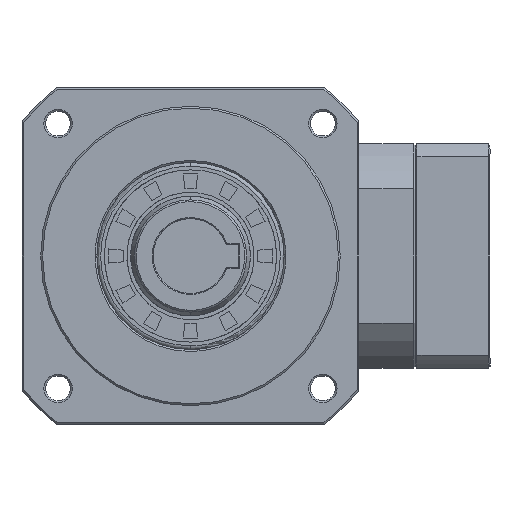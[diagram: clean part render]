
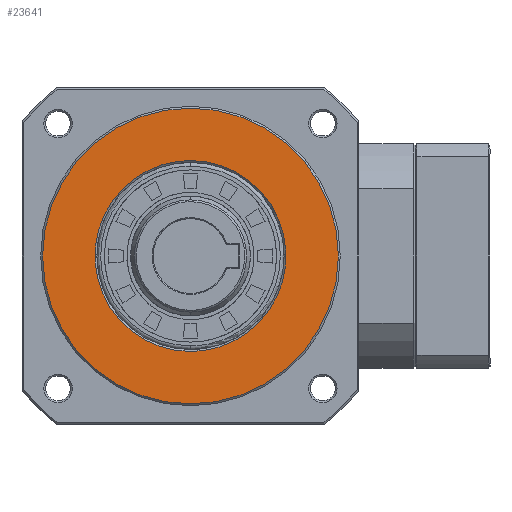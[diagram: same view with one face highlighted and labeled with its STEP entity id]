
A CAD part, left-side view. The second image highlights one B-rep face of the part: STEP entity #23641.
In plain terms, the highlighted planar face has unit normal (1, 0, 0).
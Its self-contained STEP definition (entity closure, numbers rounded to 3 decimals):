
#1794 = CARTESIAN_POINT ( 'NONE',  ( 0., 25.336, -3.338 ) ) ;
#2092 = CARTESIAN_POINT ( 'NONE',  ( 0., 12.779, 22.13 ) ) ;
#3028 = CARTESIAN_POINT ( 'NONE',  ( 0., 1.669, -25.5 ) ) ;
#3949 = CARTESIAN_POINT ( 'NONE',  ( 0., 0., 39.5 ) ) ;
#4161 = FACE_BOUND ( 'NONE', #5088, .T. ) ;
#5088 = EDGE_LOOP ( 'NONE', ( #90246, #32620 ) ) ;
#5735 = CARTESIAN_POINT ( 'NONE',  ( 0., -22.13, -12.779 ) ) ;
#6655 = CARTESIAN_POINT ( 'NONE',  ( 0., -22.92, -11.3 ) ) ;
#9242 = CARTESIAN_POINT ( 'NONE',  ( 0., 3.338, -25.336 ) ) ;
#9544 = CARTESIAN_POINT ( 'NONE',  ( 0., 3.338, 25.336 ) ) ;
#13196 = CARTESIAN_POINT ( 'NONE',  ( 0., -8.216, -24.198 ) ) ;
#13481 = CARTESIAN_POINT ( 'NONE',  ( 0., -19.211, -16.851 ) ) ;
#15199 = CARTESIAN_POINT ( 'NONE',  ( 0., 0., 25.5 ) ) ;
#16120 = CARTESIAN_POINT ( 'NONE',  ( 0., -39.974, 39.974 ) ) ;
#17010 = DIRECTION ( 'NONE',  ( 0., 0., -1. ) ) ;
#17295 = CARTESIAN_POINT ( 'NONE',  ( 0., 22.92, 11.3 ) ) ;
#19997 = CARTESIAN_POINT ( 'NONE',  ( 0., -8.216, 24.198 ) ) ;
#20265 = CIRCLE ( 'NONE', #78419, 39.5 ) ;
#23641 = ADVANCED_FACE ( 'NONE', ( #4161, #80996 ), #58767, .T. ) ;
#23815 = CARTESIAN_POINT ( 'NONE',  ( 0., 25.336, 3.338 ) ) ;
#24752 = CARTESIAN_POINT ( 'NONE',  ( 0., 0., 0. ) ) ;
#26770 = CIRCLE ( 'NONE', #53624, 39.5 ) ;
#27143 = CARTESIAN_POINT ( 'NONE',  ( 0., -20.275, -15.555 ) ) ;
#27164 = VERTEX_POINT ( 'NONE', #29874 ) ;
#27285 = EDGE_CURVE ( 'NONE', #27164, #31990, #20265, .T. ) ;
#27459 = CARTESIAN_POINT ( 'NONE',  ( 0., 0., -25.5 ) ) ;
#27758 = CARTESIAN_POINT ( 'NONE',  ( 0., -3.338, 25.336 ) ) ;
#28057 = CARTESIAN_POINT ( 'NONE',  ( 0., -22.92, 11.3 ) ) ;
#29874 = CARTESIAN_POINT ( 'NONE',  ( 0., 0., -39.5 ) ) ;
#30019 = CARTESIAN_POINT ( 'NONE',  ( 0., 24.198, 8.216 ) ) ;
#30333 = CARTESIAN_POINT ( 'NONE',  ( 0., 8.216, 24.198 ) ) ;
#30641 = CARTESIAN_POINT ( 'NONE',  ( 0., 24.198, -8.216 ) ) ;
#30964 = B_SPLINE_CURVE_WITH_KNOTS ( 'NONE', 3,
 ( #79216, #3028, #9242, #37497, #80140, #65839, #45301, #80457, #67070, #38112, #66764, #73927, #59626, #30641, #66470, #1794, #72694, #38416, #23815, #52800, #30019, #17295, #51869, #72996, #37793, #59318, #66158, #2092, #59023, #30333, #87297, #9544, #44388, #87603 ),
 .UNSPECIFIED., .F., .F.,
 ( 4, 2, 2, 2, 2, 2, 2, 2, 2, 2, 2, 2, 2, 2, 2, 2, 4 ),
 ( 0.5, 0.531, 0.563, 0.594, 0.625, 0.656, 0.688, 0.719, 0.75, 0.781, 0.813, 0.844, 0.875, 0.906, 0.938, 0.969, 1. ),
 .UNSPECIFIED. ) ;
#31990 = VERTEX_POINT ( 'NONE', #3949 ) ;
#32620 = ORIENTED_EDGE ( 'NONE', *, *, #85185, .F. ) ;
#33418 = VERTEX_POINT ( 'NONE', #65350 ) ;
#34574 = CARTESIAN_POINT ( 'NONE',  ( 0., -16.851, 19.211 ) ) ;
#35201 = CARTESIAN_POINT ( 'NONE',  ( 0., -1.669, -25.5 ) ) ;
#37497 = CARTESIAN_POINT ( 'NONE',  ( 0., 6.612, -24.684 ) ) ;
#37793 = CARTESIAN_POINT ( 'NONE',  ( 0., 19.211, 16.851 ) ) ;
#38112 = CARTESIAN_POINT ( 'NONE',  ( 0., 19.211, -16.851 ) ) ;
#38416 = CARTESIAN_POINT ( 'NONE',  ( 0., 25.5, 1.669 ) ) ;
#41184 = CARTESIAN_POINT ( 'NONE',  ( 0., 0., 25.5 ) ) ;
#41501 = CARTESIAN_POINT ( 'NONE',  ( 0., -25.5, 1.669 ) ) ;
#41801 = CARTESIAN_POINT ( 'NONE',  ( 0., -16.851, -19.211 ) ) ;
#42104 = CARTESIAN_POINT ( 'NONE',  ( 0., -20.275, 15.555 ) ) ;
#44388 = CARTESIAN_POINT ( 'NONE',  ( 0., 1.669, 25.5 ) ) ;
#45301 = CARTESIAN_POINT ( 'NONE',  ( 0., 12.779, -22.13 ) ) ;
#46367 = DIRECTION ( 'NONE',  ( 1., 0., 0. ) ) ;
#48338 = CARTESIAN_POINT ( 'NONE',  ( 0., -19.211, 16.851 ) ) ;
#48645 = CARTESIAN_POINT ( 'NONE',  ( 0., -12.779, -22.13 ) ) ;
#49251 = CARTESIAN_POINT ( 'NONE',  ( 0., -22.13, 12.779 ) ) ;
#49562 = CARTESIAN_POINT ( 'NONE',  ( 0., -24.684, 6.612 ) ) ;
#51869 = CARTESIAN_POINT ( 'NONE',  ( 0., 22.13, 12.779 ) ) ;
#52800 = CARTESIAN_POINT ( 'NONE',  ( 0., 24.684, 6.612 ) ) ;
#52954 = CARTESIAN_POINT ( 'NONE',  ( 0., 0., 0. ) ) ;
#53624 = AXIS2_PLACEMENT_3D ( 'NONE', #24752, #66486, #17010 ) ;
#55528 = CARTESIAN_POINT ( 'NONE',  ( 0., -24.198, 8.216 ) ) ;
#55839 = CARTESIAN_POINT ( 'NONE',  ( 0., -11.3, -22.92 ) ) ;
#57843 = DIRECTION ( 'NONE',  ( 0., 0., -1. ) ) ;
#58767 = PLANE ( 'NONE',  #87108 ) ;
#59023 = CARTESIAN_POINT ( 'NONE',  ( 0., 11.3, 22.92 ) ) ;
#59318 = CARTESIAN_POINT ( 'NONE',  ( 0., 16.851, 19.211 ) ) ;
#59626 = CARTESIAN_POINT ( 'NONE',  ( 0., 22.92, -11.3 ) ) ;
#61221 = VERTEX_POINT ( 'NONE', #15199 ) ;
#62957 = CARTESIAN_POINT ( 'NONE',  ( 0., -6.612, -24.684 ) ) ;
#62997 = EDGE_CURVE ( 'NONE', #61221, #33418, #68971, .T. ) ;
#65350 = CARTESIAN_POINT ( 'NONE',  ( 0., 0., -25.5 ) ) ;
#65839 = CARTESIAN_POINT ( 'NONE',  ( 0., 11.3, -22.92 ) ) ;
#66158 = CARTESIAN_POINT ( 'NONE',  ( 0., 15.555, 20.275 ) ) ;
#66470 = CARTESIAN_POINT ( 'NONE',  ( 0., 24.684, -6.612 ) ) ;
#66486 = DIRECTION ( 'NONE',  ( 1., 0., 0. ) ) ;
#66764 = CARTESIAN_POINT ( 'NONE',  ( 0., 20.275, -15.555 ) ) ;
#67070 = CARTESIAN_POINT ( 'NONE',  ( 0., 16.851, -19.211 ) ) ;
#67538 = DIRECTION ( 'NONE',  ( 0., 0., -1. ) ) ;
#68971 = B_SPLINE_CURVE_WITH_KNOTS ( 'NONE', 3,
 ( #41184, #83798, #27758, #70709, #19997, #90945, #92135, #91844, #34574, #48338, #42104, #49251, #28057, #55528, #49562, #84100, #41501, #70065, #69758, #91260, #70387, #6655, #5735, #27143, #13481, #41801, #76953, #48645, #55839, #13196, #62957, #77250, #35201, #27459 ),
 .UNSPECIFIED., .F., .F.,
 ( 4, 2, 2, 2, 2, 2, 2, 2, 2, 2, 2, 2, 2, 2, 2, 2, 4 ),
 ( 0., 0.031, 0.063, 0.094, 0.125, 0.156, 0.188, 0.219, 0.25, 0.281, 0.313, 0.344, 0.375, 0.406, 0.438, 0.469, 0.5 ),
 .UNSPECIFIED. ) ;
#69758 = CARTESIAN_POINT ( 'NONE',  ( 0., -25.336, -3.338 ) ) ;
#70065 = CARTESIAN_POINT ( 'NONE',  ( 0., -25.5, -1.669 ) ) ;
#70387 = CARTESIAN_POINT ( 'NONE',  ( 0., -24.198, -8.216 ) ) ;
#70709 = CARTESIAN_POINT ( 'NONE',  ( 0., -6.612, 24.684 ) ) ;
#70815 = ORIENTED_EDGE ( 'NONE', *, *, #27285, .T. ) ;
#72694 = CARTESIAN_POINT ( 'NONE',  ( 0., 25.5, -1.669 ) ) ;
#72996 = CARTESIAN_POINT ( 'NONE',  ( 0., 20.275, 15.555 ) ) ;
#73927 = CARTESIAN_POINT ( 'NONE',  ( 0., 22.13, -12.779 ) ) ;
#76397 = EDGE_CURVE ( 'NONE', #31990, #27164, #26770, .T. ) ;
#76953 = CARTESIAN_POINT ( 'NONE',  ( 0., -15.555, -20.275 ) ) ;
#77250 = CARTESIAN_POINT ( 'NONE',  ( 0., -3.338, -25.336 ) ) ;
#78419 = AXIS2_PLACEMENT_3D ( 'NONE', #52954, #46367, #67538 ) ;
#79216 = CARTESIAN_POINT ( 'NONE',  ( 0., 0., -25.5 ) ) ;
#79785 = ORIENTED_EDGE ( 'NONE', *, *, #76397, .T. ) ;
#80140 = CARTESIAN_POINT ( 'NONE',  ( 0., 8.216, -24.198 ) ) ;
#80457 = CARTESIAN_POINT ( 'NONE',  ( 0., 15.555, -20.275 ) ) ;
#80996 = FACE_OUTER_BOUND ( 'NONE', #88451, .T. ) ;
#83798 = CARTESIAN_POINT ( 'NONE',  ( 0., -1.669, 25.5 ) ) ;
#84100 = CARTESIAN_POINT ( 'NONE',  ( 0., -25.336, 3.338 ) ) ;
#85185 = EDGE_CURVE ( 'NONE', #33418, #61221, #30964, .T. ) ;
#86108 = DIRECTION ( 'NONE',  ( 1., 0., 0. ) ) ;
#87108 = AXIS2_PLACEMENT_3D ( 'NONE', #16120, #86108, #57843 ) ;
#87297 = CARTESIAN_POINT ( 'NONE',  ( 0., 6.612, 24.684 ) ) ;
#87603 = CARTESIAN_POINT ( 'NONE',  ( 0., 0., 25.5 ) ) ;
#88451 = EDGE_LOOP ( 'NONE', ( #70815, #79785 ) ) ;
#90246 = ORIENTED_EDGE ( 'NONE', *, *, #62997, .F. ) ;
#90945 = CARTESIAN_POINT ( 'NONE',  ( 0., -11.3, 22.92 ) ) ;
#91260 = CARTESIAN_POINT ( 'NONE',  ( 0., -24.684, -6.612 ) ) ;
#91844 = CARTESIAN_POINT ( 'NONE',  ( 0., -15.555, 20.275 ) ) ;
#92135 = CARTESIAN_POINT ( 'NONE',  ( 0., -12.779, 22.13 ) ) ;
